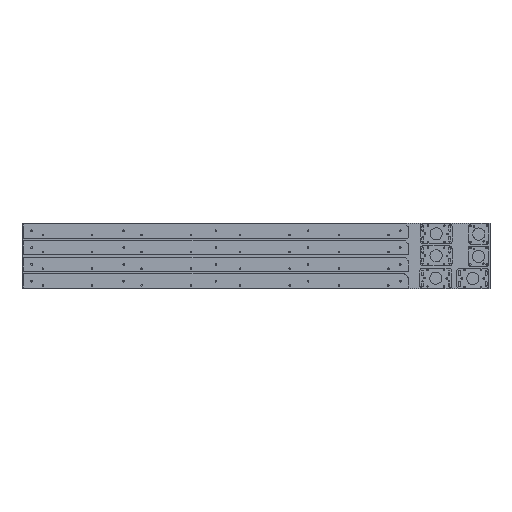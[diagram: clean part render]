
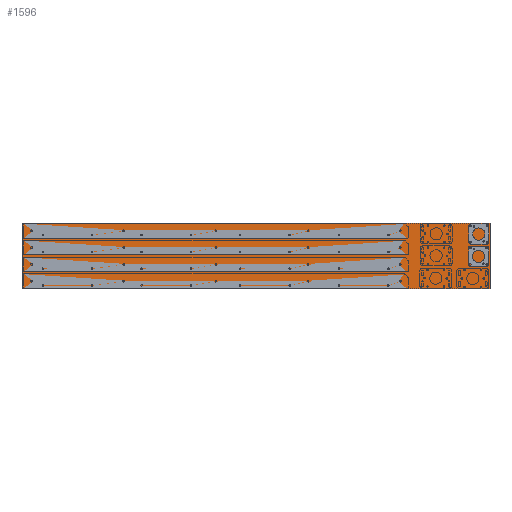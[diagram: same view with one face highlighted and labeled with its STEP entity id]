
A CAD part, top view. The second image highlights one B-rep face of the part: STEP entity #1596.
In plain terms, the highlighted planar face has unit normal (0, 0, 1).
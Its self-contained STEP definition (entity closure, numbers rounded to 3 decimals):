
#290=FACE_OUTER_BOUND('',#371,.T.);
#371=EDGE_LOOP('',(#1140,#1141,#1142,#1143));
#509=LINE('',#2441,#632);
#515=LINE('',#2452,#638);
#518=LINE('',#2459,#641);
#520=LINE('',#2462,#643);
#632=VECTOR('',#1926,10.);
#638=VECTOR('',#1934,10.);
#641=VECTOR('',#1941,10.);
#643=VECTOR('',#1945,10.);
#755=VERTEX_POINT('',#2439);
#756=VERTEX_POINT('',#2440);
#760=VERTEX_POINT('',#2450);
#762=VERTEX_POINT('',#2458);
#901=EDGE_CURVE('',#755,#756,#509,.T.);
#907=EDGE_CURVE('',#756,#760,#515,.T.);
#910=EDGE_CURVE('',#762,#755,#518,.T.);
#912=EDGE_CURVE('',#760,#762,#520,.T.);
#1140=ORIENTED_EDGE('',*,*,#901,.T.);
#1141=ORIENTED_EDGE('',*,*,#907,.T.);
#1142=ORIENTED_EDGE('',*,*,#912,.T.);
#1143=ORIENTED_EDGE('',*,*,#910,.T.);
#1563=PLANE('',#1729);
#1596=ADVANCED_FACE('',(#290),#1563,.T.);
#1729=AXIS2_PLACEMENT_3D('',#2463,#1946,#1947);
#1926=DIRECTION('',(0.,1.,0.));
#1934=DIRECTION('',(-1.,0.,0.));
#1941=DIRECTION('',(1.,0.,0.));
#1945=DIRECTION('',(0.,-1.,0.));
#1946=DIRECTION('center_axis',(0.,0.,1.));
#1947=DIRECTION('ref_axis',(1.,0.,0.));
#2439=CARTESIAN_POINT('',(1760.408,272.235,0.));
#2440=CARTESIAN_POINT('',(1760.408,472.235,0.));
#2441=CARTESIAN_POINT('',(1760.408,322.235,0.));
#2450=CARTESIAN_POINT('',(338.762,472.235,0.));
#2452=CARTESIAN_POINT('',(3338.762,472.235,0.));
#2458=CARTESIAN_POINT('',(338.762,272.235,0.));
#2459=CARTESIAN_POINT('',(338.762,272.235,0.));
#2462=CARTESIAN_POINT('',(338.762,472.235,0.));
#2463=CARTESIAN_POINT('Origin',(1838.762,372.235,0.));
